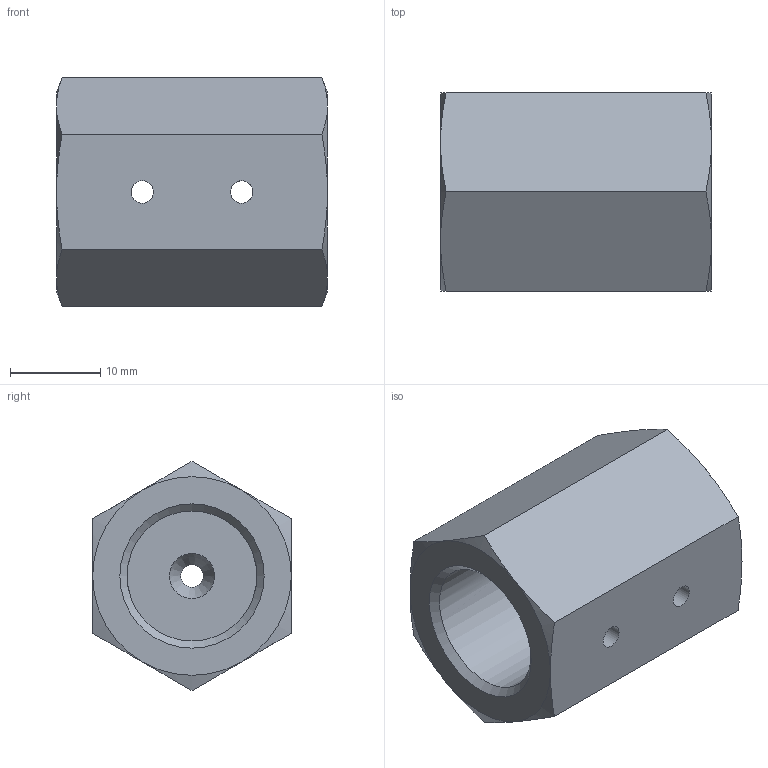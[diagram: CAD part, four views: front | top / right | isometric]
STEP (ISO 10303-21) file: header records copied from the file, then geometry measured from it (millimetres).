
FILE_DESCRIPTION(/* description */ (''),/* implementation_level */ '2;1');
FILE_NAME(/* name */ '16.1-4.1600.stp',/* time_stamp */ '2026-07-06T21:41:06+02:00',/* author */ ('janos'),/* organization */ (''),/* preprocessor_version */ 'ST-DEVELOPER v19.2',/* originating_system */ 'Autodesk Inventor 2024',/* authorisation */ '');
FILE_SCHEMA (('AUTOMOTIVE_DESIGN { 1 0 10303 214 3 1 1 }'));
Length unit declared in the file: millimetre
Products named in the file (1): 16.1-4.1600
Bounding box: 30 x 22 x 25.4 mm (x, y, z)
Volume: 8816.1 mm3; surface area: 4180.8 mm2
Topology: 1 solids, 1 shells, 33 faces, 77 edges, 48 vertices
Faces by surface type: cone 16, plane 10, cylinder 7
Full cylindrical faces by diameter (mm): 2.5 x5, 14.376 x2
Entity records: 1098 total; most frequent: CARTESIAN_POINT 343, ORIENTED_EDGE 154, DIRECTION 141, EDGE_CURVE 77, AXIS2_PLACEMENT_3D 62, VERTEX_POINT 48, EDGE_LOOP 45, FACE_OUTER_BOUND 33
